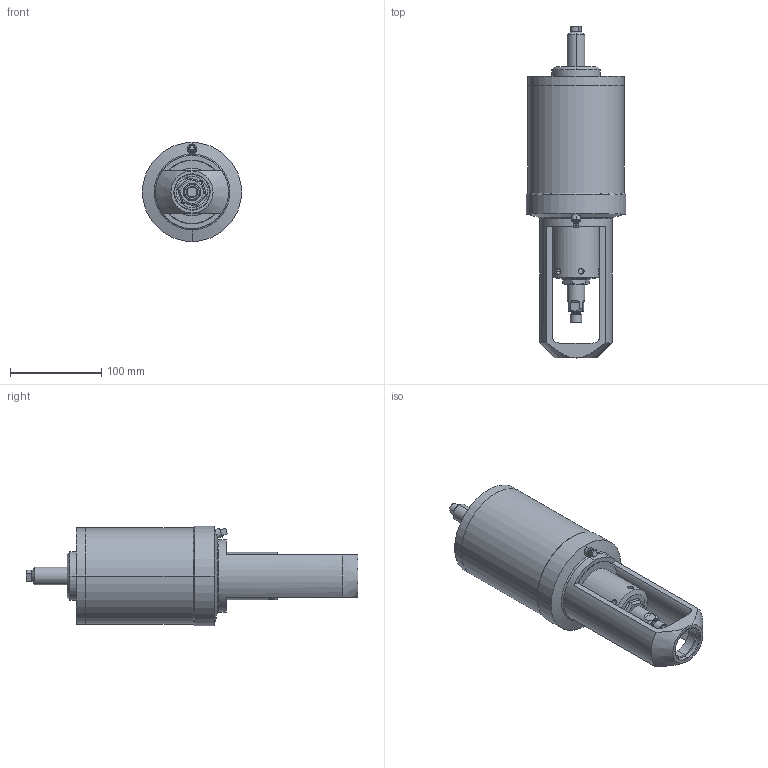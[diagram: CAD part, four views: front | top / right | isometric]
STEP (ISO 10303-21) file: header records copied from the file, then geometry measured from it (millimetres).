
FILE_DESCRIPTION (( 'STEP AP203' ), '1' );
FILE_NAME ('4in air to lower relief.STEP', '2010-08-30T19:35:46', ( 'kburns' ), ( 'Microsoft' ), 'SwSTEP 2.0', 'SolidWorks 2009', '' );
FILE_SCHEMA (( 'CONFIG_CONTROL_DESIGN' ));
Length unit declared in the file: millimetre
Products named in the file (1): 4in air to lower relief
Bounding box: 108.92 x 364.62 x 108.92 mm (x, y, z)
Volume: 1674152.5 mm3; surface area: 126484.9 mm2
Topology: 1 solids, 1 shells, 162 faces, 399 edges, 256 vertices
Faces by surface type: cylinder 63, plane 57, cone 34, bspline 8
Entity records: 5966 total; most frequent: CARTESIAN_POINT 2074, DIRECTION 811, ORIENTED_EDGE 788, EDGE_CURVE 394, AXIS2_PLACEMENT_3D 323, VERTEX_POINT 256, EDGE_LOOP 190, CIRCLE 168
